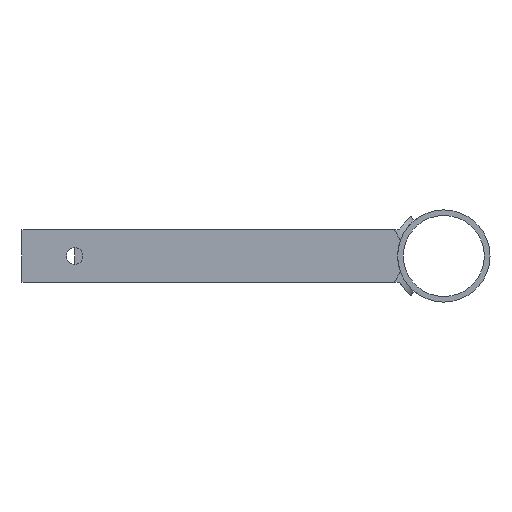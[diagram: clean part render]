
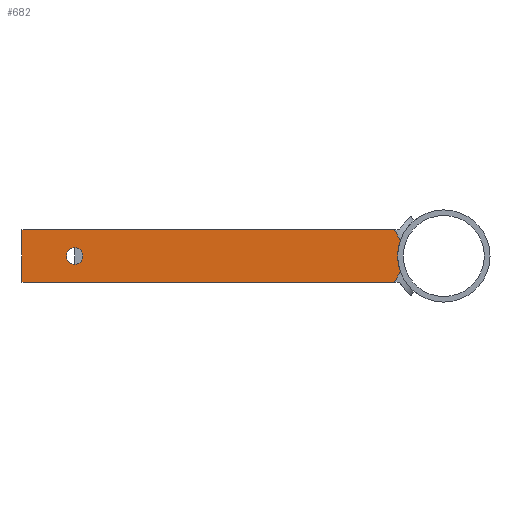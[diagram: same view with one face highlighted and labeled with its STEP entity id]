
A CAD part, front view. The second image highlights one B-rep face of the part: STEP entity #682.
In plain terms, the highlighted planar face has unit normal (0, -1, 0).
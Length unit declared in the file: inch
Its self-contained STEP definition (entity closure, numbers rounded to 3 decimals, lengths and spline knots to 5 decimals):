
#15=FACE_BOUND('',#133,.T.);
#28=CIRCLE('',#738,1.75);
#31=CIRCLE('',#741,1.75);
#37=CIRCLE('',#751,0.3125);
#67=PLANE('',#756);
#97=FACE_OUTER_BOUND('',#132,.T.);
#132=EDGE_LOOP('',(#554,#555,#556,#557,#558,#559,#560));
#133=EDGE_LOOP('',(#561));
#161=LINE('',#1017,#211);
#168=LINE('',#1058,#218);
#169=LINE('',#1064,#219);
#175=LINE('',#1105,#225);
#201=LINE('',#1213,#251);
#211=VECTOR('',#796,0.3937);
#218=VECTOR('',#809,0.3937);
#219=VECTOR('',#814,0.3937);
#225=VECTOR('',#824,0.3937);
#251=VECTOR('',#908,0.3937);
#268=VERTEX_POINT('',#1014);
#269=VERTEX_POINT('',#1016);
#274=VERTEX_POINT('',#1043);
#276=VERTEX_POINT('',#1061);
#277=VERTEX_POINT('',#1063);
#284=VERTEX_POINT('',#1103);
#301=VERTEX_POINT('',#1178);
#310=VERTEX_POINT('',#1206);
#335=EDGE_CURVE('',#269,#268,#161,.T.);
#344=EDGE_CURVE('',#274,#268,#168,.T.);
#346=EDGE_CURVE('',#276,#277,#169,.T.);
#355=EDGE_CURVE('',#276,#284,#175,.T.);
#381=EDGE_CURVE('',#301,#274,#28,.T.);
#385=EDGE_CURVE('',#277,#301,#31,.T.);
#395=EDGE_CURVE('',#310,#310,#37,.T.);
#399=EDGE_CURVE('',#284,#269,#201,.T.);
#554=ORIENTED_EDGE('',*,*,#344,.F.);
#555=ORIENTED_EDGE('',*,*,#381,.F.);
#556=ORIENTED_EDGE('',*,*,#385,.F.);
#557=ORIENTED_EDGE('',*,*,#346,.F.);
#558=ORIENTED_EDGE('',*,*,#355,.T.);
#559=ORIENTED_EDGE('',*,*,#399,.T.);
#560=ORIENTED_EDGE('',*,*,#335,.T.);
#561=ORIENTED_EDGE('',*,*,#395,.T.);
#682=ADVANCED_FACE('',(#97,#15),#67,.T.);
#738=AXIS2_PLACEMENT_3D('',#1180,#870,#871);
#741=AXIS2_PLACEMENT_3D('',#1186,#877,#878);
#751=AXIS2_PLACEMENT_3D('',#1207,#901,#902);
#756=AXIS2_PLACEMENT_3D('',#1219,#917,#918);
#796=DIRECTION('',(1.,0.,0.));
#809=DIRECTION('',(-0.5,0.,-0.866));
#814=DIRECTION('',(0.5,0.,-0.866));
#824=DIRECTION('',(-1.,0.,0.));
#870=DIRECTION('center_axis',(0.,-1.,0.));
#871=DIRECTION('ref_axis',(1.,0.,0.));
#877=DIRECTION('center_axis',(0.,-1.,0.));
#878=DIRECTION('ref_axis',(1.,0.,0.));
#901=DIRECTION('center_axis',(0.,1.,0.));
#902=DIRECTION('ref_axis',(-1.,0.,0.));
#908=DIRECTION('',(0.,0.,-1.));
#917=DIRECTION('center_axis',(0.,-1.,0.));
#918=DIRECTION('ref_axis',(0.,0.,-1.));
#1014=CARTESIAN_POINT('',(-1.88108,4.,-1.));
#1016=CARTESIAN_POINT('',(-16.,4.,-1.));
#1017=CARTESIAN_POINT('',(-16.,4.,-1.));
#1043=CARTESIAN_POINT('',(-1.64632,4.,-0.59339));
#1058=CARTESIAN_POINT('',(-2.60235,4.,-2.24928));
#1061=CARTESIAN_POINT('',(-1.88108,4.,1.));
#1063=CARTESIAN_POINT('',(-1.64632,4.,0.59339));
#1064=CARTESIAN_POINT('',(-2.26345,4.,1.66229));
#1103=CARTESIAN_POINT('',(-16.,4.,1.));
#1105=CARTESIAN_POINT('',(0.,4.,1.));
#1178=CARTESIAN_POINT('',(-1.75,4.,0.));
#1180=CARTESIAN_POINT('Origin',(0.,4.,0.));
#1186=CARTESIAN_POINT('Origin',(0.,4.,0.));
#1206=CARTESIAN_POINT('',(-13.6875,4.,0.));
#1207=CARTESIAN_POINT('Origin',(-14.,4.,0.));
#1213=CARTESIAN_POINT('',(-16.,4.,-0.8));
#1219=CARTESIAN_POINT('Origin',(-8.,4.,-0.9));
